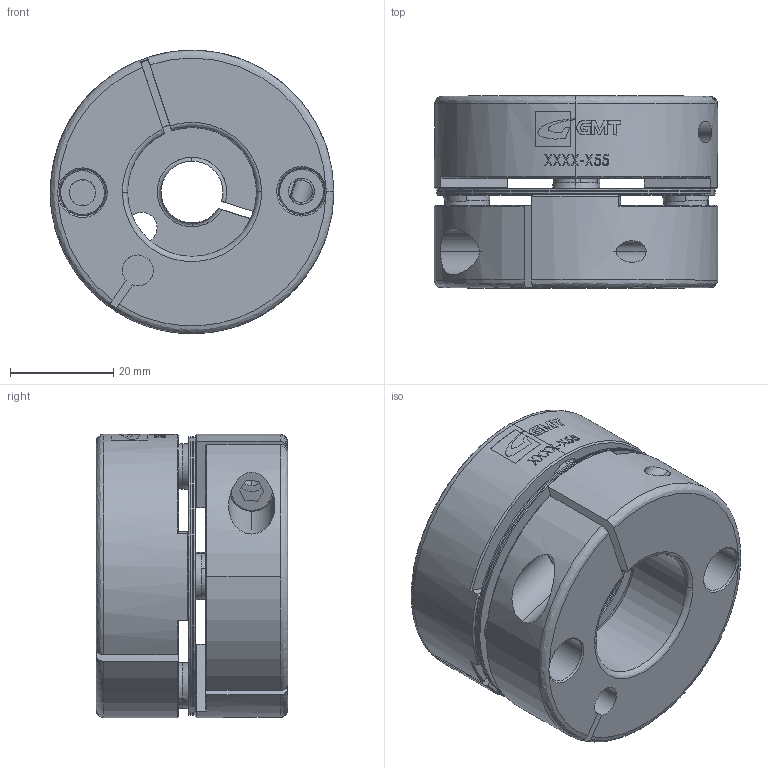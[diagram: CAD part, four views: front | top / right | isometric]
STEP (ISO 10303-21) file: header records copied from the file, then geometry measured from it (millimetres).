
FILE_DESCRIPTION (( 'STEP AP203' ), '1' );
FILE_NAME ('FACC-S55.STEP', '2008-04-05T02:03:05', ( '陳志豪' ), ( '高明鐵企業股份有限公司' ), 'SwSTEP 2.0', 'SolidWorks 2007', '' );
FILE_SCHEMA (( 'CONFIG_CONTROL_DESIGN' ));
Length unit declared in the file: millimetre
Products named in the file (1): FACC-S55
Bounding box: 55 x 37.2 x 55 mm (x, y, z)
Surface area: 23767.2 mm2 (no closed solid volume)
Topology: 0 solids, 7 shells, 246 faces, 778 edges, 542 vertices
Faces by surface type: cylinder 104, bspline 51, cone 46, plane 45
Entity records: 14052 total; most frequent: CARTESIAN_POINT 7856, ORIENTED_EDGE 1465, DIRECTION 928, EDGE_CURVE 778, VERTEX_POINT 542, B_SPLINE_CURVE_WITH_KNOTS 397, AXIS2_PLACEMENT_3D 354, EDGE_LOOP 287
